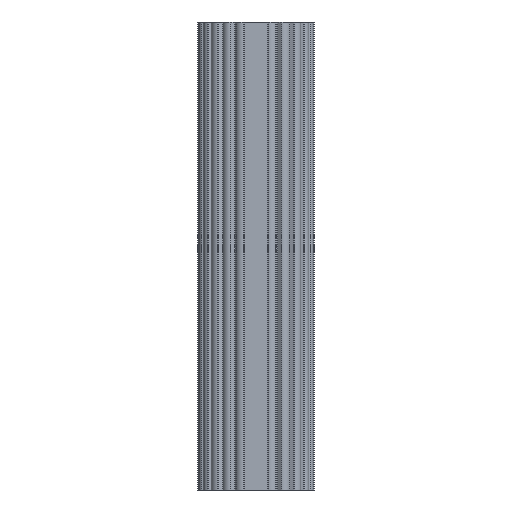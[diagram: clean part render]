
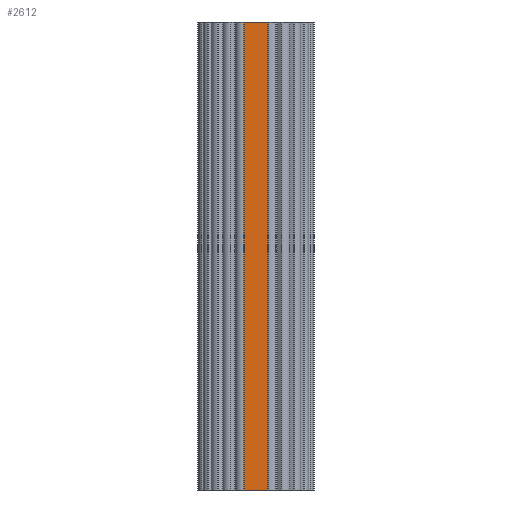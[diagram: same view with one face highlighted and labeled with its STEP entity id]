
A CAD part, front view. The second image highlights one B-rep face of the part: STEP entity #2612.
In plain terms, the highlighted planar face has unit normal (0, -1, 0).
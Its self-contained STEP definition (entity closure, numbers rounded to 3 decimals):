
#336=FACE_OUTER_BOUND('',#472,.T.);
#472=EDGE_LOOP('',(#1979,#1980,#1981,#1982));
#666=LINE('',#4268,#904);
#667=LINE('',#4271,#905);
#668=LINE('',#4273,#906);
#669=LINE('',#4274,#907);
#904=VECTOR('',#3444,100.);
#905=VECTOR('',#3447,9.401);
#906=VECTOR('',#3448,9.401);
#907=VECTOR('',#3449,100.);
#1159=VERTEX_POINT('',#4264);
#1160=VERTEX_POINT('',#4266);
#1161=VERTEX_POINT('',#4270);
#1162=VERTEX_POINT('',#4272);
#1502=EDGE_CURVE('',#1159,#1160,#666,.T.);
#1503=EDGE_CURVE('',#1161,#1159,#667,.T.);
#1504=EDGE_CURVE('',#1162,#1160,#668,.T.);
#1505=EDGE_CURVE('',#1161,#1162,#669,.T.);
#1979=ORIENTED_EDGE('',*,*,#1503,.T.);
#1980=ORIENTED_EDGE('',*,*,#1502,.T.);
#1981=ORIENTED_EDGE('',*,*,#1504,.F.);
#1982=ORIENTED_EDGE('',*,*,#1505,.F.);
#2512=PLANE('',#2842);
#2612=ADVANCED_FACE('',(#336),#2512,.T.);
#2842=AXIS2_PLACEMENT_3D('',#4269,#3445,#3446);
#3444=DIRECTION('',(0.,0.,1.));
#3445=DIRECTION('center_axis',(0.,-1.,0.));
#3446=DIRECTION('ref_axis',(1.,0.,0.));
#3447=DIRECTION('',(1.,0.,0.));
#3448=DIRECTION('',(1.,0.,0.));
#3449=DIRECTION('',(0.,0.,1.));
#4264=CARTESIAN_POINT('',(4.7,-6.388,0.));
#4266=CARTESIAN_POINT('',(4.7,-6.388,100.));
#4268=CARTESIAN_POINT('',(4.7,-6.388,0.));
#4269=CARTESIAN_POINT('Origin',(-4.701,-6.388,0.));
#4270=CARTESIAN_POINT('',(-4.701,-6.388,0.));
#4271=CARTESIAN_POINT('',(-4.701,-6.388,0.));
#4272=CARTESIAN_POINT('',(-4.701,-6.388,100.));
#4273=CARTESIAN_POINT('',(-4.701,-6.388,100.));
#4274=CARTESIAN_POINT('',(-4.701,-6.388,0.));
